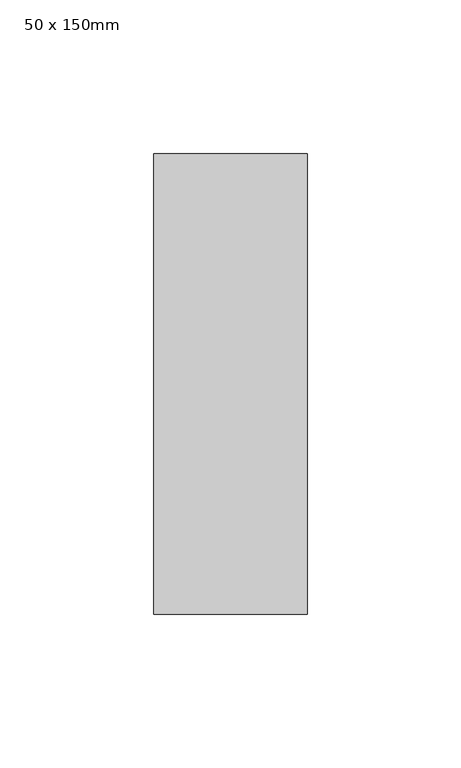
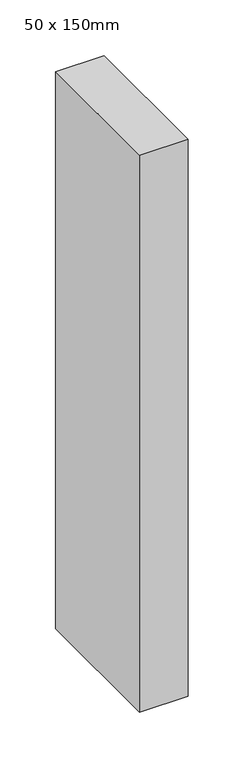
"""IFC4 building model written with IfcOpenShell, lengths in millimetres: member geometry, Прямоугольный импост : 50 x 150mm."""

from ifc_helpers import new_model, si_unit, frame, origin, place, context, project, spatial, polyline, outline, extrude, source, transform, mapped, element, save


def member_50_x_150mm_92720bf7(model_context):
    return source(origin(), model_context, "Body", "SweptSolid", [
        extrude(outline(polyline([(0.0, 75.0), (0.0, -75.0), (-50.0, -75.0), (-50.0, 75.0), (0.0, 75.0)])), frame((0.0, 0.0, -607.5), z_axis=(0.0, 0.0, 1.0), x_axis=(1.0, 0.0, 0.0)), (0.0, 0.0, 1.0), 607.5),
    ])


if __name__ == "__main__":
    model = new_model("IFC4")
    model_context = context("Model", 3, world=origin())
    ifc_project = project(units=[si_unit("LENGTHUNIT", "METRE", prefix="MILLI")], contexts=[model_context])
    site = spatial("IfcSite", under=ifc_project)
    building = spatial("IfcBuilding", under=site)
    placement = place(None, origin())
    member_50_x_150mm_shape = member_50_x_150mm_92720bf7(model_context)
    element("IfcMember", 1, ObjectType="Прямоугольный импост : 50 x 150mm", at=placement, inside=building, context=model_context, shape_type="MappedRepresentation", body=[
        mapped(member_50_x_150mm_shape, transform((0.0, 0.0, 0.0), x_axis=(1.0, 0.0, 0.0), y_axis=(0.0, 1.0, 0.0), z_axis=(0.0, 0.0, 1.0))),
    ])
    save(model, "model.ifc")
